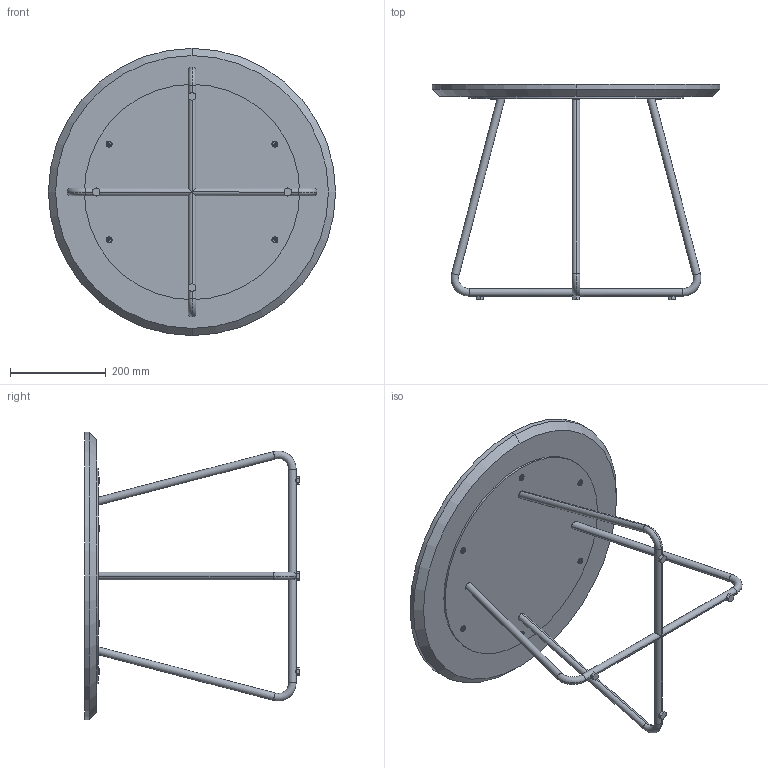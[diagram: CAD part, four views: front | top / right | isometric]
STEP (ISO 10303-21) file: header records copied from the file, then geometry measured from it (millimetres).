
FILE_DESCRIPTION (( 'STEP AP214' ), '1' );
FILE_NAME ('Cork Table - D600XH450.STEP', '2024-04-04T13:27:22', ( '' ), ( '' ), 'SwSTEP 2.0', 'SolidWorks 2023', '' );
FILE_SCHEMA (( 'AUTOMOTIVE_DESIGN' ));
Length unit declared in the file: millimetre
Products named in the file (7): Wooden Top; M6x20MM Hex Leveller; Wood insert nut_M6; M6x16MM Flate head allen Bolt; Cork Table - D600XH450; 4 MM Sheet; Metal Frame_Default<As Machined>
Assembly tree (19 placements, depth 2):
  Cork Table - D600XH450
    Wooden Top
    4 MM Sheet
    Metal Frame_Default<As Machined>
    M6x16MM Flate head allen Bolt  x6
    Wood insert nut_M6  x6
    M6x20MM Hex Leveller  x4
Bounding box: 600 x 449 x 600 mm (x, y, z)
Volume: 8026523 mm3; surface area: 1074215.7 mm2
Topology: 29 solids, 29 shells, 826 faces, 2082 edges, 1336 vertices
Faces by surface type: cylinder 450, plane 236, torus 72, bspline 42, cone 26
Entity records: 11945 total; most frequent: CARTESIAN_POINT 6615, ORIENTED_EDGE 1070, DIRECTION 1000, EDGE_CURVE 535, AXIS2_PLACEMENT_3D 399, VERTEX_POINT 346, EDGE_LOOP 253, ADVANCED_FACE 230
